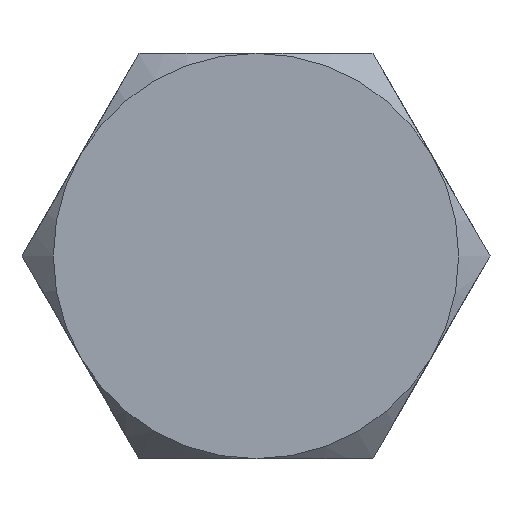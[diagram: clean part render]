
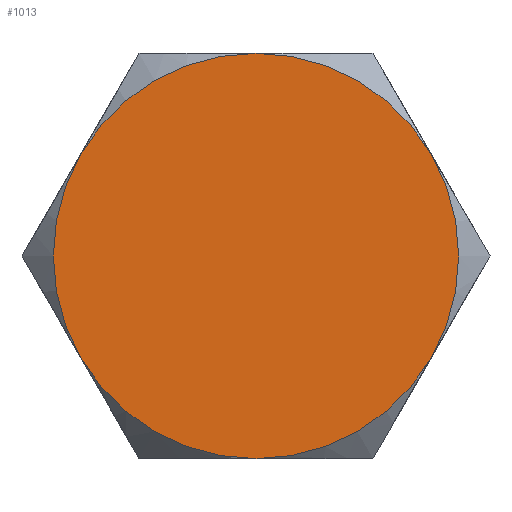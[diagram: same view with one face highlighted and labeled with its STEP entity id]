
A CAD part, front view. The second image highlights one B-rep face of the part: STEP entity #1013.
In plain terms, the highlighted planar face has unit normal (0, -1, 0).
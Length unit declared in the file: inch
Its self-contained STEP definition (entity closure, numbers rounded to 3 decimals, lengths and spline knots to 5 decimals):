
#67=PLANE('',#1155);
#202=FACE_OUTER_BOUND('',#268,.T.);
#268=EDGE_LOOP('',(#838,#839,#840,#841,#842,#843));
#336=CIRCLE('',#1144,0.625);
#337=CIRCLE('',#1146,0.625);
#338=CIRCLE('',#1148,0.625);
#339=CIRCLE('',#1150,0.625);
#340=CIRCLE('',#1152,0.625);
#341=CIRCLE('',#1154,0.625);
#443=VERTEX_POINT('',#1822);
#448=VERTEX_POINT('',#1842);
#451=VERTEX_POINT('',#1859);
#453=VERTEX_POINT('',#1877);
#456=VERTEX_POINT('',#1894);
#458=VERTEX_POINT('',#1910);
#590=EDGE_CURVE('',#443,#451,#336,.T.);
#591=EDGE_CURVE('',#458,#443,#337,.T.);
#592=EDGE_CURVE('',#456,#458,#338,.T.);
#593=EDGE_CURVE('',#453,#456,#339,.T.);
#594=EDGE_CURVE('',#448,#453,#340,.T.);
#595=EDGE_CURVE('',#451,#448,#341,.T.);
#838=ORIENTED_EDGE('',*,*,#594,.F.);
#839=ORIENTED_EDGE('',*,*,#595,.F.);
#840=ORIENTED_EDGE('',*,*,#590,.F.);
#841=ORIENTED_EDGE('',*,*,#591,.F.);
#842=ORIENTED_EDGE('',*,*,#592,.F.);
#843=ORIENTED_EDGE('',*,*,#593,.F.);
#1013=ADVANCED_FACE('',(#202),#67,.T.);
#1144=AXIS2_PLACEMENT_3D('',#1924,#1385,#1386);
#1146=AXIS2_PLACEMENT_3D('',#1926,#1389,#1390);
#1148=AXIS2_PLACEMENT_3D('',#1928,#1393,#1394);
#1150=AXIS2_PLACEMENT_3D('',#1930,#1397,#1398);
#1152=AXIS2_PLACEMENT_3D('',#1932,#1401,#1402);
#1154=AXIS2_PLACEMENT_3D('',#1934,#1405,#1406);
#1155=AXIS2_PLACEMENT_3D('',#1935,#1407,#1408);
#1385=DIRECTION('center_axis',(0.,1.,0.));
#1386=DIRECTION('ref_axis',(0.,0.,1.));
#1389=DIRECTION('center_axis',(0.,1.,0.));
#1390=DIRECTION('ref_axis',(0.,0.,1.));
#1393=DIRECTION('center_axis',(0.,1.,0.));
#1394=DIRECTION('ref_axis',(0.,0.,1.));
#1397=DIRECTION('center_axis',(0.,1.,0.));
#1398=DIRECTION('ref_axis',(0.,0.,1.));
#1401=DIRECTION('center_axis',(0.,1.,0.));
#1402=DIRECTION('ref_axis',(0.,0.,1.));
#1405=DIRECTION('center_axis',(0.,1.,0.));
#1406=DIRECTION('ref_axis',(0.,0.,1.));
#1407=DIRECTION('center_axis',(0.,-1.,0.));
#1408=DIRECTION('ref_axis',(0.,0.,-1.));
#1822=CARTESIAN_POINT('',(0.54127,0.,0.3125));
#1842=CARTESIAN_POINT('',(0.,0.,-0.625));
#1859=CARTESIAN_POINT('',(0.54127,0.,-0.3125));
#1877=CARTESIAN_POINT('',(-0.54127,0.,-0.3125));
#1894=CARTESIAN_POINT('',(-0.54127,0.,0.3125));
#1910=CARTESIAN_POINT('',(0.,0.,0.625));
#1924=CARTESIAN_POINT('Origin',(0.,0.,0.));
#1926=CARTESIAN_POINT('Origin',(0.,0.,0.));
#1928=CARTESIAN_POINT('Origin',(0.,0.,0.));
#1930=CARTESIAN_POINT('Origin',(0.,0.,0.));
#1932=CARTESIAN_POINT('Origin',(0.,0.,0.));
#1934=CARTESIAN_POINT('Origin',(0.,0.,0.));
#1935=CARTESIAN_POINT('Origin',(0.,0.,0.));
